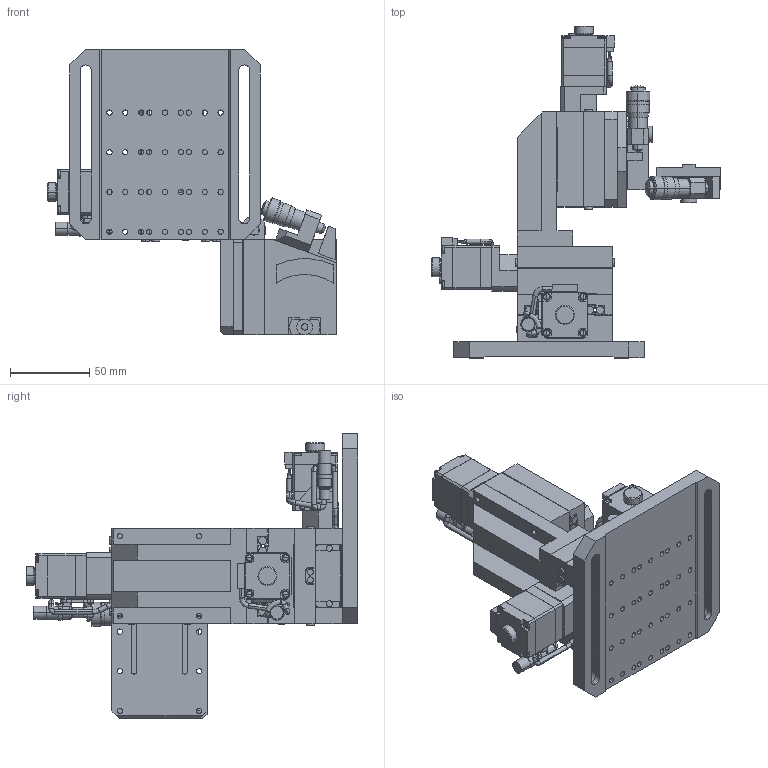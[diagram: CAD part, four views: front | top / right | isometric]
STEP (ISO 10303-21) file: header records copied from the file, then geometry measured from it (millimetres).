
FILE_DESCRIPTION (( 'STEP AP214' ), '1' );
FILE_NAME ('ES3001WA-L.STEP', '2017-03-10T08:17:00', ( '' ), ( '' ), 'SwSTEP 2.0', 'SolidWorks 2017', '' );
FILE_SCHEMA (( 'AUTOMOTIVE_DESIGN' ));
Length unit declared in the file: millimetre
Products named in the file (19): Copy of B50-60LN-2^Copy of B50-60LN_000-OST-ES3001WA-L; Copy of B50-60LN^000-OST-ES3001WA-L; Copy of B50-60LN-1^Copy of B50-60LN_000-OST-ES3001WA-L; Copy of E02-2^000-OST-ES3001WA-L; Copy (3) of KXC06020-G^000-OST-ES3001WA-L; Copy of KXC06020-G-2^Copy (3) of KXC06020-G_000-OST-ES3001WA-L; Copy of KXC06020-G-1^Copy (3) of KXC06020-G_000-OST-ES3001WA-L; Copy of A47-112^000-OST-ES3001WA-L; Copy (2) of KXC06020-G^000-OST-ES3001WA-L; Copy of KXC06020-G-2^Copy (2) of KXC06020-G_000-OST-ES3001WA-L; Copy of KXC06020-G-1^Copy (2) of KXC06020-G_000-OST-ES3001WA-L; Copy of KXC06020-G^000-OST-ES3001WA-L; Copy of KXC06020-G-2^Copy of KXC06020-G_000-OST-ES3001WA-L; Copy of KXC06020-G-1^Copy of KXC06020-G_000-OST-ES3001WA-L; Copy of A24-1^000-OST-ES3001WA-L; Copy of B50-60LN-5^Copy of B50-60LN_000-OST-ES3001WA-L; ES3001WA-L; Copy of B50-60LN-4^Copy of B50-60LN_000-OST-ES3001WA-L; Copy of B50-60LN-3^Copy of B50-60LN_000-OST-ES3001WA-L
Assembly tree (18 placements, depth 3):
  ES3001WA-L
    Copy of A24-1^000-OST-ES3001WA-L
    Copy of KXC06020-G^000-OST-ES3001WA-L
      Copy of KXC06020-G-1^Copy of KXC06020-G_000-OST-ES3001WA-L
      Copy of KXC06020-G-2^Copy of KXC06020-G_000-OST-ES3001WA-L
    Copy (2) of KXC06020-G^000-OST-ES3001WA-L
      Copy of KXC06020-G-1^Copy (2) of KXC06020-G_000-OST-ES3001WA-L
      Copy of KXC06020-G-2^Copy (2) of KXC06020-G_000-OST-ES3001WA-L
    Copy of A47-112^000-OST-ES3001WA-L
    Copy (3) of KXC06020-G^000-OST-ES3001WA-L
      Copy of KXC06020-G-1^Copy (3) of KXC06020-G_000-OST-ES3001WA-L
      Copy of KXC06020-G-2^Copy (3) of KXC06020-G_000-OST-ES3001WA-L
    Copy of E02-2^000-OST-ES3001WA-L
    Copy of B50-60LN^000-OST-ES3001WA-L
      Copy of B50-60LN-1^Copy of B50-60LN_000-OST-ES3001WA-L
      Copy of B50-60LN-2^Copy of B50-60LN_000-OST-ES3001WA-L
      Copy of B50-60LN-3^Copy of B50-60LN_000-OST-ES3001WA-L
      Copy of B50-60LN-4^Copy of B50-60LN_000-OST-ES3001WA-L
      Copy of B50-60LN-5^Copy of B50-60LN_000-OST-ES3001WA-L
Bounding box: 182 x 209 x 180 mm (x, y, z)
Volume: 717821.5 mm3; surface area: 244353.9 mm2
Topology: 14 solids, 14 shells, 2180 faces, 5928 edges, 3800 vertices
Faces by surface type: plane 1184, cylinder 721, bspline 164, cone 111
Entity records: 73243 total; most frequent: CARTESIAN_POINT 16693, ORIENTED_EDGE 11710, DIRECTION 11681, EDGE_CURVE 5855, AXIS2_PLACEMENT_3D 3946, VERTEX_POINT 3794, VECTOR 3789, LINE 3789
